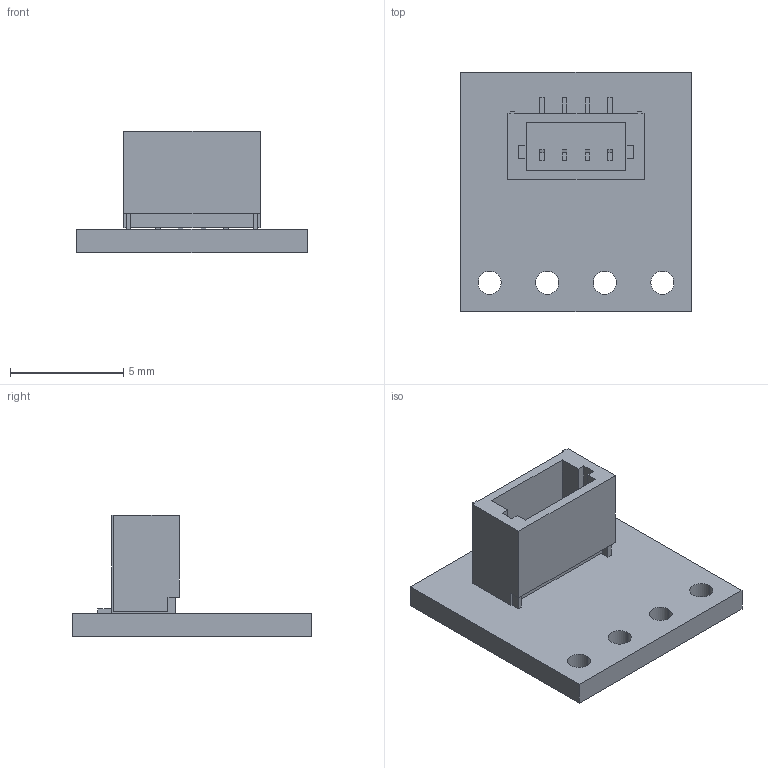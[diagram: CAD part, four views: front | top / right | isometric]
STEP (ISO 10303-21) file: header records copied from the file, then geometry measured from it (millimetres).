
FILE_DESCRIPTION (( 'STEP AP214' ), '1' );
FILE_NAME ('con06a_top.step', '2025-06-12T20:47:21', ( '' ), ( '' ), 'SwSTEP 2.0', 'SolidWorks 2025', '' );
FILE_SCHEMA (( 'AUTOMOTIVE_DESIGN' ));
Length unit declared in the file: millimetre
Products named in the file (1): con06a_top
Bounding box: 10.16 x 10.54 x 5.34 mm (x, y, z)
Volume: 149.8 mm3; surface area: 425.4 mm2
Topology: 1 solids, 1 shells, 478 faces, 1299 edges, 866 vertices
Faces by surface type: plane 276, bspline 194, cylinder 8
Entity records: 27420 total; most frequent: CARTESIAN_POINT 11478, ORIENTED_EDGE 2598, DIRECTION 1497, EDGE_CURVE 1299, VECTOR 895, LINE 895, VERTEX_POINT 866, EDGE_LOOP 539
